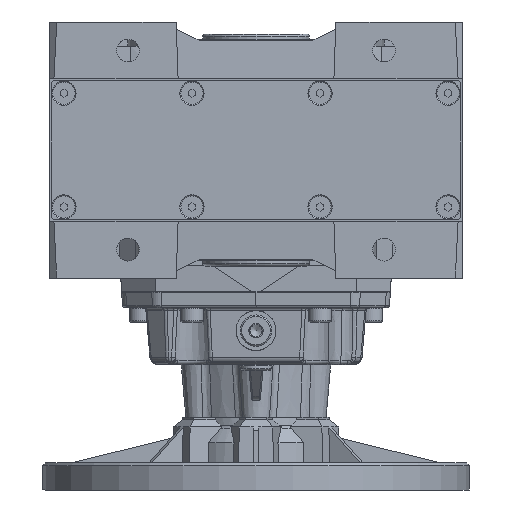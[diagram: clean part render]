
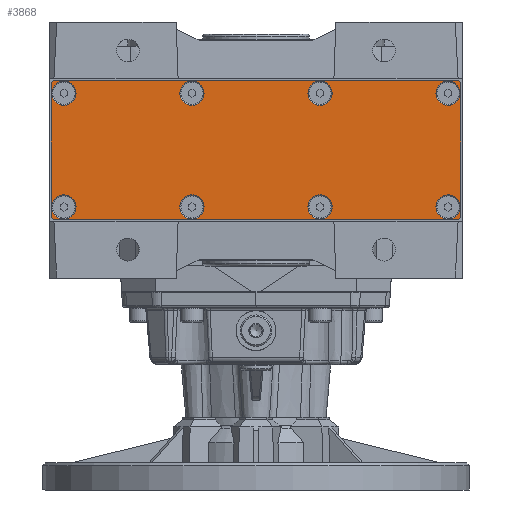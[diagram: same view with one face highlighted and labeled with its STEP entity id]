
A CAD part, front view. The second image highlights one B-rep face of the part: STEP entity #3868.
In plain terms, the highlighted planar face has unit normal (0, -1, 0).
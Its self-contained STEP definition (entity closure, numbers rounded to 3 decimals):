
#3868 = ADVANCED_FACE( '', ( #8601, #8602, #8603, #8604, #8605, #8606, #8607, #8608, #8609 ), #8610, .F. );
#8601 = FACE_OUTER_BOUND( '', #21721, .T. );
#8602 = FACE_BOUND( '', #21722, .T. );
#8603 = FACE_BOUND( '', #21723, .T. );
#8604 = FACE_BOUND( '', #21724, .T. );
#8605 = FACE_BOUND( '', #21725, .T. );
#8606 = FACE_BOUND( '', #21726, .T. );
#8607 = FACE_BOUND( '', #21727, .T. );
#8608 = FACE_BOUND( '', #21728, .T. );
#8609 = FACE_BOUND( '', #21729, .T. );
#8610 = PLANE( '', #21730 );
#21721 = EDGE_LOOP( '', ( #35913, #35914, #35915, #35916, #35917, #35918, #35919, #35920 ) );
#21722 = EDGE_LOOP( '', ( #35921 ) );
#21723 = EDGE_LOOP( '', ( #35922 ) );
#21724 = EDGE_LOOP( '', ( #35923 ) );
#21725 = EDGE_LOOP( '', ( #35924 ) );
#21726 = EDGE_LOOP( '', ( #35925 ) );
#21727 = EDGE_LOOP( '', ( #35926 ) );
#21728 = EDGE_LOOP( '', ( #35927 ) );
#21729 = EDGE_LOOP( '', ( #35928 ) );
#21730 = AXIS2_PLACEMENT_3D( '', #35929, #35930, #35931 );
#35913 = ORIENTED_EDGE( '', *, *, #44065, .F. );
#35914 = ORIENTED_EDGE( '', *, *, #42069, .F. );
#35915 = ORIENTED_EDGE( '', *, *, #44319, .F. );
#35916 = ORIENTED_EDGE( '', *, *, #44320, .F. );
#35917 = ORIENTED_EDGE( '', *, *, #41293, .F. );
#35918 = ORIENTED_EDGE( '', *, *, #44321, .F. );
#35919 = ORIENTED_EDGE( '', *, *, #40191, .F. );
#35920 = ORIENTED_EDGE( '', *, *, #41317, .F. );
#35921 = ORIENTED_EDGE( '', *, *, #43422, .T. );
#35922 = ORIENTED_EDGE( '', *, *, #43634, .T. );
#35923 = ORIENTED_EDGE( '', *, *, #43481, .T. );
#35924 = ORIENTED_EDGE( '', *, *, #44271, .T. );
#35925 = ORIENTED_EDGE( '', *, *, #42799, .T. );
#35926 = ORIENTED_EDGE( '', *, *, #42528, .T. );
#35927 = ORIENTED_EDGE( '', *, *, #40914, .T. );
#35928 = ORIENTED_EDGE( '', *, *, #44322, .T. );
#35929 = CARTESIAN_POINT( '', ( 0., -144.5, -73. ) );
#35930 = DIRECTION( '', ( 0., 1., 0. ) );
#35931 = DIRECTION( '', ( -1., 0., 0. ) );
#40191 = EDGE_CURVE( '', #45516, #45518, #45519, .T. );
#40914 = EDGE_CURVE( '', #46778, #46778, #46779, .T. );
#41293 = EDGE_CURVE( '', #47409, #47411, #47412, .T. );
#41317 = EDGE_CURVE( '', #47448, #45516, #47450, .T. );
#42069 = EDGE_CURVE( '', #48631, #48633, #48634, .T. );
#42528 = EDGE_CURVE( '', #49326, #49326, #49327, .T. );
#42799 = EDGE_CURVE( '', #49720, #49720, #49721, .T. );
#43422 = EDGE_CURVE( '', #50592, #50592, #50593, .T. );
#43481 = EDGE_CURVE( '', #50673, #50673, #50674, .T. );
#43634 = EDGE_CURVE( '', #50868, #50868, #50869, .T. );
#44065 = EDGE_CURVE( '', #48633, #47448, #51430, .T. );
#44271 = EDGE_CURVE( '', #51691, #51691, #51692, .T. );
#44319 = EDGE_CURVE( '', #51757, #48631, #51758, .T. );
#44320 = EDGE_CURVE( '', #47411, #51757, #51759, .T. );
#44321 = EDGE_CURVE( '', #45518, #47409, #51760, .T. );
#44322 = EDGE_CURVE( '', #51761, #51761, #51762, .T. );
#45516 = VERTEX_POINT( '', #53315 );
#45518 = VERTEX_POINT( '', #53318 );
#45519 = LINE( '', #53319, #53320 );
#46778 = VERTEX_POINT( '', #55994 );
#46779 = CIRCLE( '', #55995, 8.5 );
#47409 = VERTEX_POINT( '', #57263 );
#47411 = VERTEX_POINT( '', #57266 );
#47412 = LINE( '', #57267, #57268 );
#47448 = VERTEX_POINT( '', #57332 );
#47450 = CIRCLE( '', #57335, 3. );
#48631 = VERTEX_POINT( '', #59549 );
#48633 = VERTEX_POINT( '', #59552 );
#48634 = CIRCLE( '', #59553, 3. );
#49326 = VERTEX_POINT( '', #61019 );
#49327 = CIRCLE( '', #61020, 8.5 );
#49720 = VERTEX_POINT( '', #61990 );
#49721 = CIRCLE( '', #61991, 8.5 );
#50592 = VERTEX_POINT( '', #63855 );
#50593 = CIRCLE( '', #63856, 8.5 );
#50673 = VERTEX_POINT( '', #64039 );
#50674 = CIRCLE( '', #64040, 8.5 );
#50868 = VERTEX_POINT( '', #64379 );
#50869 = CIRCLE( '', #64380, 8.5 );
#51430 = LINE( '', #65869, #65870 );
#51691 = VERTEX_POINT( '', #66233 );
#51692 = CIRCLE( '', #66234, 8.5 );
#51757 = VERTEX_POINT( '', #66398 );
#51758 = LINE( '', #66399, #66400 );
#51759 = CIRCLE( '', #66401, 3. );
#51760 = CIRCLE( '', #66402, 3. );
#51761 = VERTEX_POINT( '', #66403 );
#51762 = CIRCLE( '', #66404, 8.5 );
#53315 = CARTESIAN_POINT( '', ( -144., -144.5, -119. ) );
#53318 = CARTESIAN_POINT( '', ( -144., -144.5, -27. ) );
#53319 = CARTESIAN_POINT( '', ( -144., -144.5, -73. ) );
#53320 = VECTOR( '', #68114, 1000. );
#55994 = CARTESIAN_POINT( '', ( -53.5, -144.5, -113. ) );
#55995 = AXIS2_PLACEMENT_3D( '', #68954, #68955, #68956 );
#57263 = CARTESIAN_POINT( '', ( -141., -144.5, -24. ) );
#57266 = CARTESIAN_POINT( '', ( 141., -144.5, -24. ) );
#57267 = CARTESIAN_POINT( '', ( -144., -144.5, -24. ) );
#57268 = VECTOR( '', #69450, 1000. );
#57332 = CARTESIAN_POINT( '', ( -141., -144.5, -122. ) );
#57335 = AXIS2_PLACEMENT_3D( '', #69489, #69490, #69491 );
#59549 = CARTESIAN_POINT( '', ( 144., -144.5, -119. ) );
#59552 = CARTESIAN_POINT( '', ( 141., -144.5, -122. ) );
#59553 = AXIS2_PLACEMENT_3D( '', #70443, #70444, #70445 );
#61019 = CARTESIAN_POINT( '', ( 36.5, -144.5, -113. ) );
#61020 = AXIS2_PLACEMENT_3D( '', #71002, #71003, #71004 );
#61990 = CARTESIAN_POINT( '', ( 126.5, -144.5, -113. ) );
#61991 = AXIS2_PLACEMENT_3D( '', #71302, #71303, #71304 );
#63855 = CARTESIAN_POINT( '', ( 126.5, -144.5, -33. ) );
#63856 = AXIS2_PLACEMENT_3D( '', #71976, #71977, #71978 );
#64039 = CARTESIAN_POINT( '', ( -53.5, -144.5, -33. ) );
#64040 = AXIS2_PLACEMENT_3D( '', #72023, #72024, #72025 );
#64379 = CARTESIAN_POINT( '', ( 36.5, -144.5, -33. ) );
#64380 = AXIS2_PLACEMENT_3D( '', #72173, #72174, #72175 );
#65869 = CARTESIAN_POINT( '', ( 144., -144.5, -122. ) );
#65870 = VECTOR( '', #72625, 1000. );
#66233 = CARTESIAN_POINT( '', ( -143.5, -144.5, -33. ) );
#66234 = AXIS2_PLACEMENT_3D( '', #72853, #72854, #72855 );
#66398 = CARTESIAN_POINT( '', ( 144., -144.5, -27. ) );
#66399 = CARTESIAN_POINT( '', ( 144., -144.5, -24. ) );
#66400 = VECTOR( '', #72916, 1000. );
#66401 = AXIS2_PLACEMENT_3D( '', #72917, #72918, #72919 );
#66402 = AXIS2_PLACEMENT_3D( '', #72920, #72921, #72922 );
#66403 = CARTESIAN_POINT( '', ( -143.5, -144.5, -113. ) );
#66404 = AXIS2_PLACEMENT_3D( '', #72923, #72924, #72925 );
#68114 = DIRECTION( '', ( 0., 0., 1. ) );
#68954 = CARTESIAN_POINT( '', ( -45., -144.5, -113. ) );
#68955 = DIRECTION( '', ( 0., 1., 0. ) );
#68956 = DIRECTION( '', ( -1., 0., 0. ) );
#69450 = DIRECTION( '', ( 1., 0., 0. ) );
#69489 = CARTESIAN_POINT( '', ( -141., -144.5, -119. ) );
#69490 = DIRECTION( '', ( 0., 1., 0. ) );
#69491 = DIRECTION( '', ( -1., 0., 0. ) );
#70443 = CARTESIAN_POINT( '', ( 141., -144.5, -119. ) );
#70444 = DIRECTION( '', ( 0., 1., 0. ) );
#70445 = DIRECTION( '', ( -1., 0., 0. ) );
#71002 = CARTESIAN_POINT( '', ( 45., -144.5, -113. ) );
#71003 = DIRECTION( '', ( 0., 1., 0. ) );
#71004 = DIRECTION( '', ( -1., 0., 0. ) );
#71302 = CARTESIAN_POINT( '', ( 135., -144.5, -113. ) );
#71303 = DIRECTION( '', ( 0., 1., 0. ) );
#71304 = DIRECTION( '', ( -1., 0., 0. ) );
#71976 = CARTESIAN_POINT( '', ( 135., -144.5, -33. ) );
#71977 = DIRECTION( '', ( 0., 1., 0. ) );
#71978 = DIRECTION( '', ( -1., 0., 0. ) );
#72023 = CARTESIAN_POINT( '', ( -45., -144.5, -33. ) );
#72024 = DIRECTION( '', ( 0., 1., 0. ) );
#72025 = DIRECTION( '', ( -1., 0., 0. ) );
#72173 = CARTESIAN_POINT( '', ( 45., -144.5, -33. ) );
#72174 = DIRECTION( '', ( 0., 1., 0. ) );
#72175 = DIRECTION( '', ( -1., 0., 0. ) );
#72625 = DIRECTION( '', ( -1., 0., 0. ) );
#72853 = CARTESIAN_POINT( '', ( -135., -144.5, -33. ) );
#72854 = DIRECTION( '', ( 0., 1., 0. ) );
#72855 = DIRECTION( '', ( -1., 0., 0. ) );
#72916 = DIRECTION( '', ( 0., 0., -1. ) );
#72917 = CARTESIAN_POINT( '', ( 141., -144.5, -27. ) );
#72918 = DIRECTION( '', ( 0., 1., 0. ) );
#72919 = DIRECTION( '', ( -1., 0., 0. ) );
#72920 = CARTESIAN_POINT( '', ( -141., -144.5, -27. ) );
#72921 = DIRECTION( '', ( 0., 1., 0. ) );
#72922 = DIRECTION( '', ( -1., 0., 0. ) );
#72923 = CARTESIAN_POINT( '', ( -135., -144.5, -113. ) );
#72924 = DIRECTION( '', ( 0., 1., 0. ) );
#72925 = DIRECTION( '', ( -1., 0., 0. ) );
